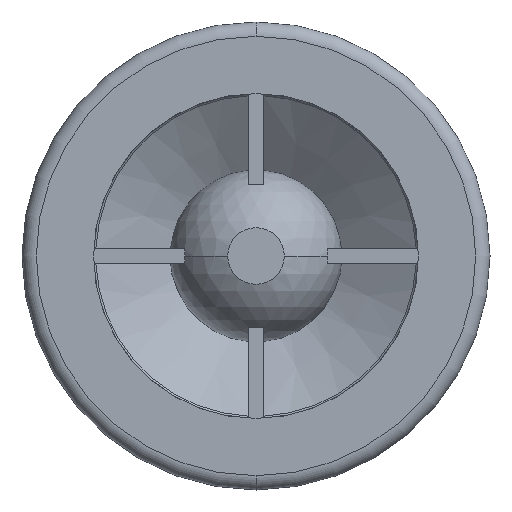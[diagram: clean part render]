
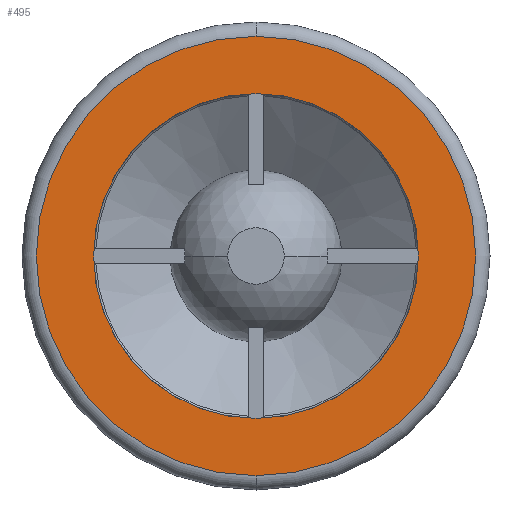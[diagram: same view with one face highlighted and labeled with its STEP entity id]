
A CAD part, front view. The second image highlights one B-rep face of the part: STEP entity #495.
In plain terms, the highlighted planar face has unit normal (0, -1, 0).
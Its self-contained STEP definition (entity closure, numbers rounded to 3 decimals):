
#284 = EDGE_CURVE ( 'NONE', #285, #286, #1279, .T. ) ;
#285 = VERTEX_POINT ( 'NONE', #1281 ) ;
#286 = VERTEX_POINT ( 'NONE', #1280 ) ;
#361 = EDGE_CURVE ( 'NONE', #2930, #2927, #1446, .T. ) ;
#422 = EDGE_LOOP ( 'NONE', ( #496, #478 ) ) ;
#477 = EDGE_CURVE ( 'NONE', #286, #285, #1784, .T. ) ;
#478 = ORIENTED_EDGE ( 'NONE', *, *, #284, .T. ) ;
#479 = EDGE_LOOP ( 'NONE', ( #480, #481 ) ) ;
#480 = ORIENTED_EDGE ( 'NONE', *, *, #361, .F. ) ;
#481 = ORIENTED_EDGE ( 'NONE', *, *, #2929, .F. ) ;
#495 = ADVANCED_FACE ( 'NONE', ( #1618, #1617 ), #1613, .F. ) ;
#496 = ORIENTED_EDGE ( 'NONE', *, *, #477, .T. ) ;
#1275 = DIRECTION ( 'NONE',  ( 0., 0., 1. ) ) ;
#1276 = DIRECTION ( 'NONE',  ( 0., -1., 0. ) ) ;
#1277 = CARTESIAN_POINT ( 'NONE',  ( 0., 0., 0. ) ) ;
#1278 = AXIS2_PLACEMENT_3D ( 'NONE', #1277, #1276, #1275 ) ;
#1279 = CIRCLE ( 'NONE', #1278, 23. ) ;
#1280 = CARTESIAN_POINT ( 'NONE',  ( 0., 0., 23. ) ) ;
#1281 = CARTESIAN_POINT ( 'NONE',  ( 0., 0., -23. ) ) ;
#1437 = DIRECTION ( 'NONE',  ( 0., -1., 0. ) ) ;
#1439 = DIRECTION ( 'NONE',  ( 0., 0., -1. ) ) ;
#1445 = AXIS2_PLACEMENT_3D ( 'NONE', #1491, #1437, #1439 ) ;
#1446 = CIRCLE ( 'NONE', #1445, 17. ) ;
#1491 = CARTESIAN_POINT ( 'NONE',  ( 0., 0., 0. ) ) ;
#1611 = DIRECTION ( 'NONE',  ( 0., 0., 1. ) ) ;
#1612 = DIRECTION ( 'NONE',  ( 0., 1., 0. ) ) ;
#1613 = PLANE ( 'NONE',  #1616 ) ;
#1615 = CARTESIAN_POINT ( 'NONE',  ( -17., 0., 0. ) ) ;
#1616 = AXIS2_PLACEMENT_3D ( 'NONE', #1615, #1612, #1611 ) ;
#1617 = FACE_BOUND ( 'NONE', #479, .T. ) ;
#1618 = FACE_OUTER_BOUND ( 'NONE', #422, .T. ) ;
#1780 = DIRECTION ( 'NONE',  ( 0., 0., 1. ) ) ;
#1781 = DIRECTION ( 'NONE',  ( 0., -1., 0. ) ) ;
#1782 = CARTESIAN_POINT ( 'NONE',  ( 0., 0., 0. ) ) ;
#1783 = AXIS2_PLACEMENT_3D ( 'NONE', #1782, #1781, #1780 ) ;
#1784 = CIRCLE ( 'NONE', #1783, 23. ) ;
#2189 = CARTESIAN_POINT ( 'NONE',  ( 0., 0., -17. ) ) ;
#2190 = DIRECTION ( 'NONE',  ( 0., 0., -1. ) ) ;
#2191 = DIRECTION ( 'NONE',  ( 0., -1., 0. ) ) ;
#2192 = CARTESIAN_POINT ( 'NONE',  ( 0., 0., 0. ) ) ;
#2193 = AXIS2_PLACEMENT_3D ( 'NONE', #2192, #2191, #2190 ) ;
#2194 = CIRCLE ( 'NONE', #2193, 17. ) ;
#2195 = CARTESIAN_POINT ( 'NONE',  ( 0., 0., 17. ) ) ;
#2927 = VERTEX_POINT ( 'NONE', #2195 ) ;
#2929 = EDGE_CURVE ( 'NONE', #2927, #2930, #2194, .T. ) ;
#2930 = VERTEX_POINT ( 'NONE', #2189 ) ;
